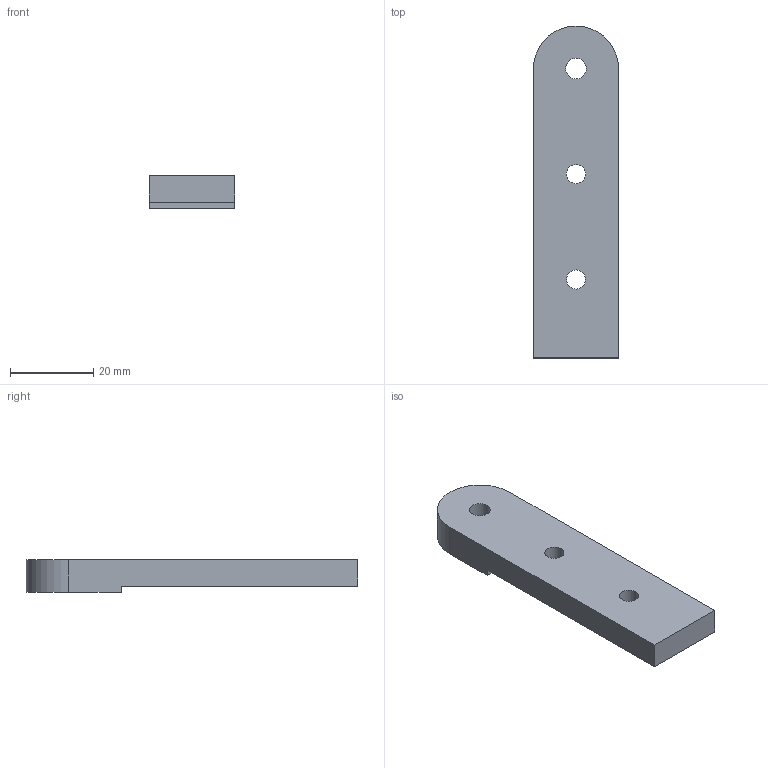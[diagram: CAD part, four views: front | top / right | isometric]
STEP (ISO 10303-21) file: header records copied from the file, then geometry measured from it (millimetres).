
FILE_DESCRIPTION(('STEP AP242 Edition 2','STEP AP242 Edition 2''CAx-IF Rec.Pracs.---Representation and Presentation of Product Manufacturing Information (PMI)---4.0---2014-10-13','STEP AP242 Edition 2''CAx-IF Rec.Pracs.---Representation and Presentation of Product Manufacturing Information (PMI)---4.0---2014-10-13''CAx-IF Rec.Pracs.---3D Tessellated Geometry---0.4---2014-09-14','STEP AP242 Edition 2''CAx-IF Rec.Pracs.---Representation and Presentation of Product Manufacturing Information (PMI)---4.0---2014-10-13''CAx-IF Rec.Pracs.---3D Tessellated Geometry---0.4---2014-09-14''2;1','STEP AP242 Edition 2''CAx-IF Rec.Pracs.---Representation and Presentation of Product Manufacturing Information (PMI)---4.0---2014-10-13''CAx-IF Rec.Pracs.---3D Tessellated Geometry---0.4---2014-09-14''2;1''CAx-IF Rec.Pracs.---User Defined Attributes---1.5---2016-08-15'),'2;1');
FILE_NAME('/vol/tmp/translate-14204331787412173317/Part Studio 1 - Part 1.step','2026-03-05T22:48:24',(''),(''),'ST-DEVELOPER v20','ONSHAPE BY PTC INC, 1.211',' ');
FILE_SCHEMA(('AP242_MANAGED_MODEL_BASED_3D_ENGINEERING_MIM_LF { 1 0 10303 442 3 1 4 }'));
Length unit declared in the file: metre
Products named in the file (1): Part 1
Bounding box: 20.5 x 79.95 x 7.9 mm (x, y, z)
Volume: 10471.1 mm3; surface area: 4737.7 mm2
Topology: 1 solids, 1 shells, 11 faces, 27 edges, 18 vertices
Faces by surface type: plane 7, cylinder 4
Full cylindrical faces by diameter (mm): 4.6 x2, 5 x1
Entity records: 348 total; most frequent: DIRECTION 56, CARTESIAN_POINT 54, ORIENTED_EDGE 48, EDGE_CURVE 24, EDGE_LOOP 20, FACE_BOUND 20, AXIS2_PLACEMENT_3D 20, VERTEX_POINT 18
